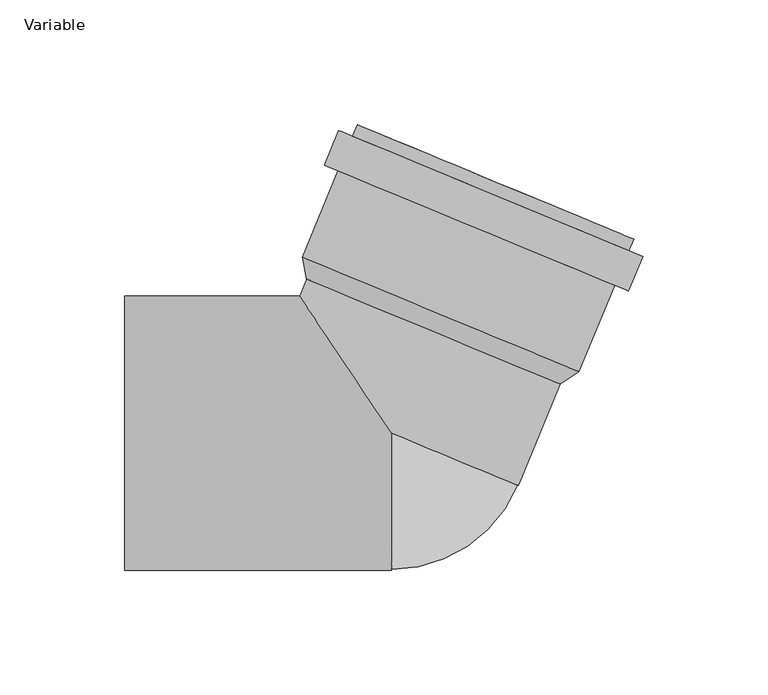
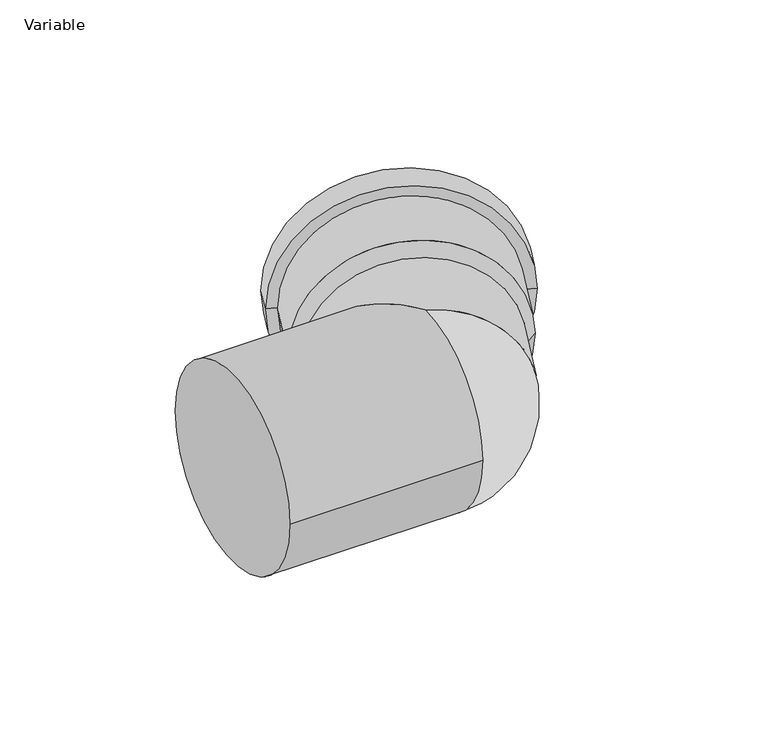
"""IFC4 building model written with IfcOpenShell, lengths in millimetres: pipe fitting geometry, AliaxisFR_Friaphon_ElbowMF_FR : Variable."""

from ifc_helpers import new_model, si_unit, point, frame, origin, place, context, project, spatial, polyline, circle_curve, ellipse_curve, trimmed, source, transform, mapped, element, save
from ifc_brep_helpers import plane_surface, cylinder_surface, revolved_surface, advanced_brep


def variable_5846137f(model_context):
    return source(origin(), model_context, "Body", "AdvancedBrep", [
        advanced_brep(
        [(97.1452661, 77.7418631, 0.0), (-13.7202778, 123.663875, 0.0), (-9.1008802, 121.7504578, 0.0), (92.5258684, 79.6552803, 0.0), (95.0348746, 56.9681719, 0.0), (-26.9172237, 107.4823849, 0.0), (-21.1769722, 121.3405779, 0.0), (100.7751261, 70.8263648, 0.0), (89.4915974, 59.2642725, 0.0), (-21.3739465, 105.1862843, 0.0), (75.1409687, 24.61879, 0.0), (-35.7245752, 70.5408019, 0.0), (-33.9753033, 61.6982882, 0.0), (67.6514453, 19.6031107, 0.0), (95.2318489, 73.1224654, 0.0), (-15.633695, 119.0444773, 0.0)],
        [
            (0, 1, circle_curve(frame((41.7124941, 100.702869, 0.0), z_axis=(0.38268343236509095, 0.9238795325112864, 0.0), x_axis=(-0.9238795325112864, 0.38268343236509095, 0.0)), 60.0)),
            (1, 2),
            (2, 3, circle_curve(frame((41.7124941, 100.702869, 0.0), z_axis=(-0.38268343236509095, -0.9238795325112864, 0.0), x_axis=(-0.9238795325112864, 0.38268343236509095, 0.0)), 55.0)),
            (3, 0),
            (1, 0, circle_curve(frame((41.7124941, 100.702869, 0.0), z_axis=(0.38268343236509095, 0.9238795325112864, 0.0), x_axis=(-0.9238795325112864, 0.38268343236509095, 0.0)), 60.0)),
            (3, 2, circle_curve(frame((41.7124941, 100.702869, 0.0), z_axis=(-0.38268343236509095, -0.9238795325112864, 0.0), x_axis=(-0.9238795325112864, 0.38268343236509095, 0.0)), 55.0)),
            (4, 5, circle_curve(frame((34.0588255, 82.2252784, 0.0), z_axis=(0.38268343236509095, 0.9238795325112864, 0.0), x_axis=(-0.9238795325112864, 0.38268343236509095, 0.0)), 66.0)),
            (5, 6),
            (6, 7, circle_curve(frame((39.799077, 96.0834714, 0.0), z_axis=(-0.38268343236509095, -0.9238795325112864, 0.0), x_axis=(-0.9238795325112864, 0.38268343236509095, 0.0)), 66.0)),
            (7, 4),
            (5, 4, circle_curve(frame((34.0588255, 82.2252784, 0.0), z_axis=(0.38268343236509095, 0.9238795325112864, 0.0), x_axis=(-0.9238795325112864, 0.38268343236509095, 0.0)), 66.0)),
            (7, 6, circle_curve(frame((39.799077, 96.0834714, 0.0), z_axis=(-0.38268343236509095, -0.9238795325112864, 0.0), x_axis=(-0.9238795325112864, 0.38268343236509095, 0.0)), 66.0)),
            (8, 9, circle_curve(frame((34.0588255, 82.2252784, 0.0), z_axis=(0.38268343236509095, 0.9238795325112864, 0.0), x_axis=(-0.9238795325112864, 0.38268343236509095, 0.0)), 60.0)),
            (9, 5),
            (4, 8),
            (9, 8, circle_curve(frame((34.0588255, 82.2252784, 0.0), z_axis=(0.38268343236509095, 0.9238795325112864, 0.0), x_axis=(-0.9238795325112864, 0.38268343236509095, 0.0)), 60.0)),
            (10, 11, circle_curve(frame((19.7081968, 47.5797959, 0.0), z_axis=(0.38268343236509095, 0.9238795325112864, 0.0), x_axis=(-0.9238795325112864, 0.38268343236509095, 0.0)), 60.0)),
            (11, 9),
            (8, 10),
            (11, 10, circle_curve(frame((19.7081968, 47.5797959, 0.0), z_axis=(0.38268343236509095, 0.9238795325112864, 0.0), x_axis=(-0.9238795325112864, 0.38268343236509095, 0.0)), 60.0)),
            (2, 12),
            (12, 13, circle_curve(frame((16.838071, 40.6506994, 0.0), z_axis=(-0.38268343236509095, -0.9238795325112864, 0.0), x_axis=(-0.9238795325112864, 0.38268343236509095, 0.0)), 55.0)),
            (13, 3),
            (13, 12, circle_curve(frame((16.838071, 40.6506994, 0.0), z_axis=(-0.38268343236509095, -0.9238795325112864, 0.0), x_axis=(-0.9238795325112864, 0.38268343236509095, 0.0)), 55.0)),
            (12, 11),
            (10, 13),
            (14, 15, circle_curve(frame((39.799077, 96.0834714, 0.0), z_axis=(0.38268343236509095, 0.9238795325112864, 0.0), x_axis=(-0.9238795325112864, 0.38268343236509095, 0.0)), 60.0)),
            (15, 1),
            (0, 14),
            (15, 14, circle_curve(frame((39.799077, 96.0834714, 0.0), z_axis=(0.38268343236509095, 0.9238795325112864, 0.0), x_axis=(-0.9238795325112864, 0.38268343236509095, 0.0)), 60.0)),
            (6, 15),
            (14, 7),
        ],
        [
            plane_surface(frame((41.7124941, 100.702869, 0.0), z_axis=(0.38268343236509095, 0.9238795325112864, 0.0), x_axis=(-0.9238795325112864, 0.38268343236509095, 0.0))),
            cylinder_surface(frame((16.838071, 40.6506994, 0.0), z_axis=(-0.38268343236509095, -0.9238795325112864, 0.0), x_axis=(-0.9238795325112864, 0.38268343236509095, 0.0)), 66.0),
            plane_surface(frame((34.0588255, 82.2252784, 0.0), z_axis=(-0.38268343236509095, -0.9238795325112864, 0.0), x_axis=(-0.9238795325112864, 0.38268343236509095, 0.0))),
            cylinder_surface(frame((16.838071, 40.6506994, 0.0), z_axis=(-0.38268343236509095, -0.9238795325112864, 0.0), x_axis=(-0.9238795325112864, 0.38268343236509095, 0.0)), 60.0),
            revolved_surface(polyline([(-33.975303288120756, 61.69828818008, 0.0), (-9.100880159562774, 121.75045785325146, 0.0)]), (16.838071, 40.6506994, 0.0), (-0.38268343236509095, -0.9238795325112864, 0.0)),
            revolved_surface(polyline([(-35.7245752, 70.5408019, 0.0), (-33.9753033, 61.6982882, 0.0)]), (16.838071, 40.6506994, 0.0), (-0.38268343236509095, -0.9238795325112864, 0.0)),
            plane_surface(frame((39.799077, 96.0834714, 0.0), z_axis=(0.38268343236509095, 0.9238795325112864, 0.0), x_axis=(-0.9238795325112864, 0.38268343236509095, 0.0))),
        ],
        [
            (0, [[1, 2, 3, 4]]),
            (0, [[5, -4, 6, -2]]),
            (1, [[7, 8, 9, 10]]),
            (1, [[11, -10, 12, -8]]),
            (2, [[13, 14, -7, 15]]),
            (2, [[16, -15, -11, -14]]),
            (3, [[17, 18, -13, 19]]),
            (3, [[20, -19, -16, -18]]),
            (4, [[-3, 21, 22, 23]]),
            (4, [[-6, -23, 24, -21]]),
            (5, [[-22, 25, -17, 26]]),
            (5, [[-24, -26, -20, -25]]),
            (3, [[27, 28, -1, 29]]),
            (3, [[30, -29, -5, -28]]),
            (6, [[-9, 31, -27, 32]]),
            (6, [[-12, -32, -30, -31]]),
        ],
    ),
        advanced_brep(
        [(-32.0618861, 66.3176859, 0.0), (69.5648625, 24.2225083, 0.0), (50.8133743, -21.0475888, 0.0), (-36.7498251, 55.0, 0.0), (0.0, 0.0, 55.0), (0.0, 0.0, -55.0), (-107.0, -55.0, 0.0), (-107.0, 55.0, 0.0), (0.0, -55.0, 0.0)],
        [
            (0, 1, circle_curve(frame((18.7514882, 45.2700971, 0.0), z_axis=(0.3826834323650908, 0.9238795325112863, 0.0), x_axis=(-0.9238795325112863, 0.3826834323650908, 0.0)), 55.0)),
            (1, 0, circle_curve(frame((18.7514882, 45.2700971, 0.0), z_axis=(0.3826834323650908, 0.9238795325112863, 0.0), x_axis=(-0.9238795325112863, 0.3826834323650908, 0.0)), 55.0)),
            (2, 1),
            (0, 3),
            (3, 4, ellipse_curve(frame((0.0, 0.0, 0.0), z_axis=(0.8314696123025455, 0.5555702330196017, 0.0), x_axis=(0.5555702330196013, -0.8314696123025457, 0.0)), 66.1479376, 55.0)),
            (4, 2, circle_curve(frame((0.0, 0.0, 0.0), z_axis=(0.3826834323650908, 0.9238795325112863, 0.0), x_axis=(-0.9238795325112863, 0.3826834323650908, 0.0)), 55.0)),
            (2, 5, circle_curve(frame((0.0, 0.0, 0.0), z_axis=(0.3826834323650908, 0.9238795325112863, 0.0), x_axis=(-0.9238795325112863, 0.3826834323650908, 0.0)), 55.0)),
            (5, 3, ellipse_curve(frame((0.0, 0.0, 0.0), z_axis=(0.8314696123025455, 0.5555702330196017, 0.0), x_axis=(0.5555702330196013, -0.8314696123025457, 0.0)), 66.1479376, 55.0)),
            (6, 7, circle_curve(frame((-107.0, 0.0, 0.0), z_axis=(-1.0, 0.0, 0.0), x_axis=(0.0, 1.0, 0.0)), 55.0)),
            (7, 6, circle_curve(frame((-107.0, 0.0, 0.0), z_axis=(-1.0, 0.0, 0.0), x_axis=(0.0, 1.0, 0.0)), 55.0)),
            (6, 8),
            (8, 4, circle_curve(frame((0.0, 0.0, 0.0), z_axis=(-1.0, 0.0, 0.0), x_axis=(0.0, 1.0, 0.0)), 55.0)),
            (3, 7),
            (5, 8, circle_curve(frame((0.0, 0.0, 0.0), z_axis=(-1.0, 0.0, 0.0), x_axis=(0.0, 1.0, 0.0)), 55.0)),
        ],
        [
            plane_surface(frame((18.7514882, 45.2700971, 0.0), z_axis=(0.3826834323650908, 0.9238795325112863, 0.0), x_axis=(0.0, 0.0, 1.0))),
            cylinder_surface(frame((0.0, 0.0, 0.0), z_axis=(-0.3826834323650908, -0.9238795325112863, 0.0), x_axis=(-0.9238795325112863, 0.3826834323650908, 0.0)), 55.0),
            plane_surface(frame((-107.0, 0.0, 0.0), z_axis=(-1.0, 0.0, 0.0), x_axis=(0.0, 0.0, 1.0))),
            cylinder_surface(frame((-107.0, 0.0, 0.0), z_axis=(-1.0, 0.0, 0.0), x_axis=(0.0, 1.0, 0.0)), 55.0),
            revolved_surface(trimmed(ellipse_curve(frame((0.0, 0.0, 0.0), z_axis=(0.3826834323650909, 0.9238795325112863, 0.0), x_axis=(-0.9238795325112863, 0.3826834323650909, 0.0)), 55.0, 55.0), [point((0.0, 0.0, 55.0))], [point((0.0, 0.0, -55.0))], True, "CARTESIAN"), (0.0, 0.0, 55.0), (0.0, 0.0, -1.0)),
        ],
        [
            (0, [[1, 2]]),
            (1, [[3, -1, 4, 5, 6]]),
            (1, [[-2, -3, 7, 8, -4]]),
            (2, [[9, 10]]),
            (3, [[-9, 11, 12, -5, 13]]),
            (3, [[-10, -13, -8, 14, -11]]),
            (4, [[-12, -14, -7, -6]]),
        ],
    ),
    ])


if __name__ == "__main__":
    model = new_model("IFC4")
    model_context = context("Model", 3, world=origin())
    ifc_project = project(units=[si_unit("LENGTHUNIT", "METRE", prefix="MILLI")], contexts=[model_context])
    site = spatial("IfcSite", under=ifc_project)
    building = spatial("IfcBuilding", under=site)
    placement = place(None, origin())
    variable_shape = variable_5846137f(model_context)
    element("IfcPipeFitting", 1, ObjectType="AliaxisFR_Friaphon_ElbowMF_FR : Variable", at=placement, inside=building, context=model_context, shape_type="MappedRepresentation", body=[
        mapped(variable_shape, transform((0.0, 0.0, 0.0), x_axis=(1.0, 0.0, 0.0), y_axis=(0.0, 1.0, 0.0), z_axis=(0.0, 0.0, 1.0))),
    ])
    save(model, "model.ifc")
